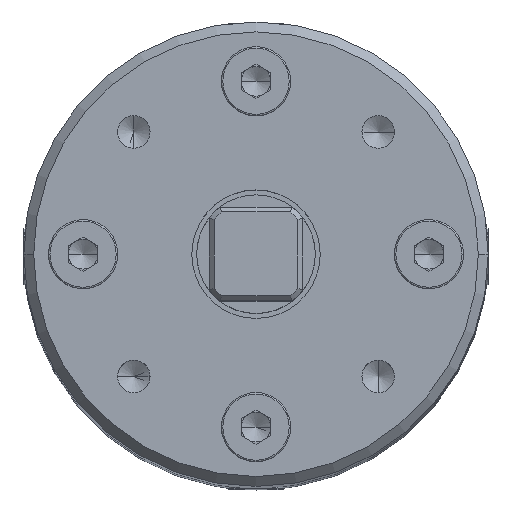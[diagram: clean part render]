
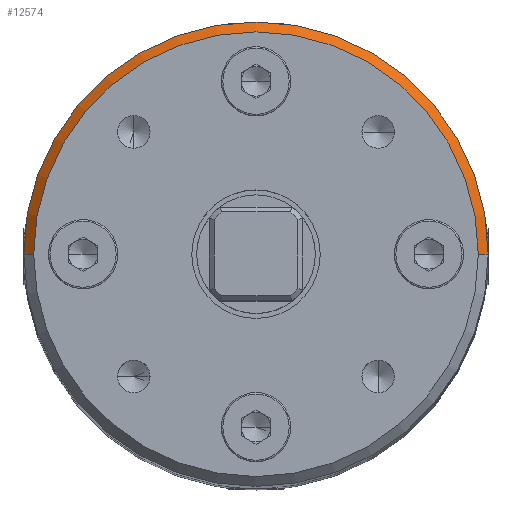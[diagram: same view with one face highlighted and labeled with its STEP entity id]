
A CAD part, top view. The second image highlights one B-rep face of the part: STEP entity #12574.
In plain terms, the highlighted conical face has half-angle 45 degrees and reference radius 23.5 mm.
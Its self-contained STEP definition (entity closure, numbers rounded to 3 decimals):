
#462 = DIRECTION ( 'NONE',  ( 1., 0., 0. ) ) ;
#3307 = DIRECTION ( 'NONE',  ( 0.707, 0., -0.707 ) ) ;
#3318 = CARTESIAN_POINT ( 'NONE',  ( -22.85, 0., 4.4 ) ) ;
#3872 = VERTEX_POINT ( 'NONE', #6129 ) ;
#4409 = FACE_OUTER_BOUND ( 'NONE', #8293, .T. ) ;
#4714 = DIRECTION ( 'NONE',  ( 0., 0., 1. ) ) ;
#4990 = ORIENTED_EDGE ( 'NONE', *, *, #24313, .F. ) ;
#5470 = AXIS2_PLACEMENT_3D ( 'NONE', #16333, #12041, #7811 ) ;
#6129 = CARTESIAN_POINT ( 'NONE',  ( -22.85, 0., 4.4 ) ) ;
#7536 = CARTESIAN_POINT ( 'NONE',  ( 24.15, 0., 4.4 ) ) ;
#7546 = LINE ( 'NONE', #3318, #24005 ) ;
#7811 = DIRECTION ( 'NONE',  ( 1., 0., 0. ) ) ;
#8293 = EDGE_LOOP ( 'NONE', ( #38507, #4990, #13661, #20237 ) ) ;
#8964 = CARTESIAN_POINT ( 'NONE',  ( 0.65, 0., 5.4 ) ) ;
#9710 = AXIS2_PLACEMENT_3D ( 'NONE', #26817, #22630, #18340 ) ;
#9836 = EDGE_CURVE ( 'NONE', #3872, #12183, #39506, .T. ) ;
#10373 = AXIS2_PLACEMENT_3D ( 'NONE', #8964, #4714, #462 ) ;
#11521 = VECTOR ( 'NONE', #3307, 1000. ) ;
#11743 = LINE ( 'NONE', #7536, #11521 ) ;
#12041 = DIRECTION ( 'NONE',  ( 0., 0., -1. ) ) ;
#12183 = VERTEX_POINT ( 'NONE', #30578 ) ;
#12574 = ADVANCED_FACE ( 'NONE', ( #4409 ), #27606, .T. ) ;
#13661 = ORIENTED_EDGE ( 'NONE', *, *, #16803, .T. ) ;
#16333 = CARTESIAN_POINT ( 'NONE',  ( 0.65, 0., 4.4 ) ) ;
#16803 = EDGE_CURVE ( 'NONE', #21245, #12183, #11743, .T. ) ;
#18340 = DIRECTION ( 'NONE',  ( 1., 0., 0. ) ) ;
#20076 = VERTEX_POINT ( 'NONE', #27243 ) ;
#20237 = ORIENTED_EDGE ( 'NONE', *, *, #9836, .F. ) ;
#21245 = VERTEX_POINT ( 'NONE', #39927 ) ;
#22630 = DIRECTION ( 'NONE',  ( 0., 0., -1. ) ) ;
#23605 = EDGE_CURVE ( 'NONE', #20076, #3872, #7546, .T. ) ;
#24005 = VECTOR ( 'NONE', #40536, 1000. ) ;
#24313 = EDGE_CURVE ( 'NONE', #21245, #20076, #25202, .T. ) ;
#25202 = CIRCLE ( 'NONE', #10373, 22.5 ) ;
#26817 = CARTESIAN_POINT ( 'NONE',  ( 0.65, 0., 4.4 ) ) ;
#27243 = CARTESIAN_POINT ( 'NONE',  ( -21.85, 0., 5.4 ) ) ;
#27606 = CONICAL_SURFACE ( 'NONE', #5470, 23.5, 0.785 ) ;
#30578 = CARTESIAN_POINT ( 'NONE',  ( 24.15, 0., 4.4 ) ) ;
#38507 = ORIENTED_EDGE ( 'NONE', *, *, #23605, .F. ) ;
#39506 = CIRCLE ( 'NONE', #9710, 23.5 ) ;
#39927 = CARTESIAN_POINT ( 'NONE',  ( 23.15, 0., 5.4 ) ) ;
#40536 = DIRECTION ( 'NONE',  ( -0.707, 0., -0.707 ) ) ;
